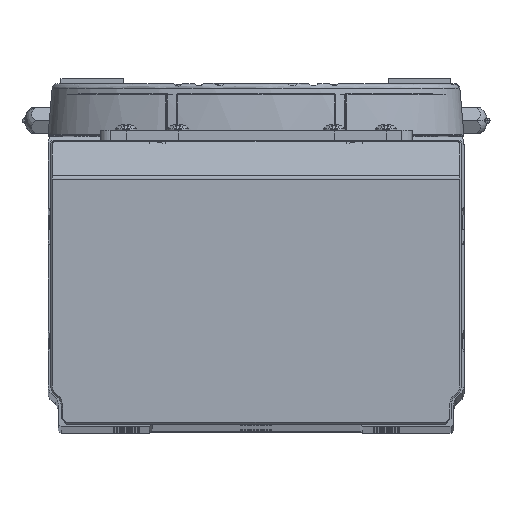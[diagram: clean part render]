
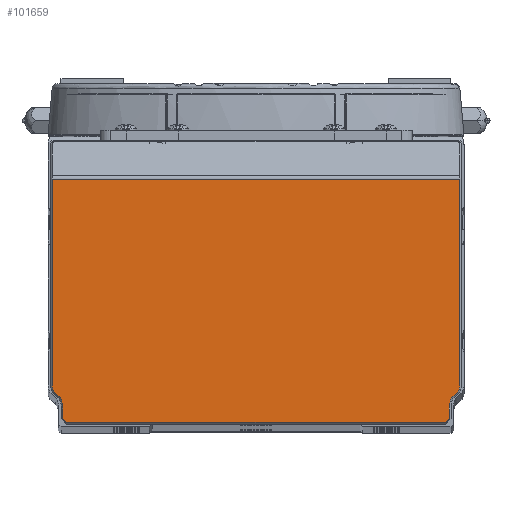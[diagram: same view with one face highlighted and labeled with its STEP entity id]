
A CAD part, top view. The second image highlights one B-rep face of the part: STEP entity #101659.
In plain terms, the highlighted planar face has unit normal (0, 0, 1).
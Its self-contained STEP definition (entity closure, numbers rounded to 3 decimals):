
#591 = DIRECTION ( 'NONE',  ( 0., 0., 1. ) ) ;
#766 = EDGE_CURVE ( 'NONE', #49263, #123008, #46489, .T. ) ;
#1224 = ORIENTED_EDGE ( 'NONE', *, *, #108898, .T. ) ;
#5864 = ORIENTED_EDGE ( 'NONE', *, *, #53673, .T. ) ;
#7689 = VECTOR ( 'NONE', #24457, 1000. ) ;
#8475 = CIRCLE ( 'NONE', #80852, 1.7 ) ;
#9084 = LINE ( 'NONE', #48621, #78837 ) ;
#10180 = DIRECTION ( 'NONE',  ( 0., 0., 1. ) ) ;
#12327 = ORIENTED_EDGE ( 'NONE', *, *, #49247, .T. ) ;
#13358 = CARTESIAN_POINT ( 'NONE',  ( -36.376, -21.2, 1010. ) ) ;
#15736 = VECTOR ( 'NONE', #98667, 1000. ) ;
#15795 = EDGE_CURVE ( 'NONE', #123008, #79033, #9084, .T. ) ;
#16359 = VERTEX_POINT ( 'NONE', #19264 ) ;
#18910 = VERTEX_POINT ( 'NONE', #25454 ) ;
#19264 = CARTESIAN_POINT ( 'NONE',  ( -39.2, -14.172, 1010. ) ) ;
#19786 = DIRECTION ( 'NONE',  ( 0.707, 0.707, 0. ) ) ;
#21953 = EDGE_CURVE ( 'NONE', #78545, #32612, #69023, .T. ) ;
#22692 = AXIS2_PLACEMENT_3D ( 'NONE', #108605, #10180, #49708 ) ;
#24351 = DIRECTION ( 'NONE',  ( -1., 0., 0. ) ) ;
#24457 = DIRECTION ( 'NONE',  ( -1., 0., 0. ) ) ;
#25454 = CARTESIAN_POINT ( 'NONE',  ( 37.2, -17.828, 1010. ) ) ;
#26056 = EDGE_CURVE ( 'NONE', #106241, #79717, #8475, .T. ) ;
#26181 = CARTESIAN_POINT ( 'NONE',  ( -31.538, -22.538, 1010. ) ) ;
#27182 = DIRECTION ( 'NONE',  ( 0., 0., -1. ) ) ;
#28524 = CARTESIAN_POINT ( 'NONE',  ( 38.702, -15.374, 1010. ) ) ;
#28657 = ORIENTED_EDGE ( 'NONE', *, *, #114397, .T. ) ;
#29778 = VECTOR ( 'NONE', #77991, 1000. ) ;
#31667 = DIRECTION ( 'NONE',  ( -1., 0., 0. ) ) ;
#31794 = VERTEX_POINT ( 'NONE', #60465 ) ;
#32612 = VERTEX_POINT ( 'NONE', #110129 ) ;
#33139 = CARTESIAN_POINT ( 'NONE',  ( 31.538, -22.538, 1010. ) ) ;
#36169 = LINE ( 'NONE', #75674, #112937 ) ;
#36563 = EDGE_LOOP ( 'NONE', ( #82494, #41135, #61259, #49179, #5864, #28657, #12327, #89236, #95686, #40460, #72354, #1224, #117810, #63178 ) ) ;
#36857 = VERTEX_POINT ( 'NONE', #98149 ) ;
#36939 = FACE_OUTER_BOUND ( 'NONE', #36563, .T. ) ;
#38503 = CARTESIAN_POINT ( 'NONE',  ( -39.2, 9., 1010. ) ) ;
#38678 = CARTESIAN_POINT ( 'NONE',  ( -37.874, -16.202, 1010. ) ) ;
#39984 = EDGE_CURVE ( 'NONE', #36857, #16359, #127173, .T. ) ;
#40113 = DIRECTION ( 'NONE',  ( -1., 0., 0. ) ) ;
#40460 = ORIENTED_EDGE ( 'NONE', *, *, #80623, .T. ) ;
#40910 = VERTEX_POINT ( 'NONE', #38678 ) ;
#41135 = ORIENTED_EDGE ( 'NONE', *, *, #97608, .T. ) ;
#43439 = AXIS2_PLACEMENT_3D ( 'NONE', #73613, #113065, #24351 ) ;
#46489 = LINE ( 'NONE', #85931, #55380 ) ;
#47115 = LINE ( 'NONE', #86553, #114735 ) ;
#48621 = CARTESIAN_POINT ( 'NONE',  ( -36.288, -21.288, 1010. ) ) ;
#49179 = ORIENTED_EDGE ( 'NONE', *, *, #39984, .T. ) ;
#49203 = CARTESIAN_POINT ( 'NONE',  ( 39.2, -14.172, 1010. ) ) ;
#49247 = EDGE_CURVE ( 'NONE', #40910, #49263, #114941, .T. ) ;
#49263 = VERTEX_POINT ( 'NONE', #61502 ) ;
#49708 = DIRECTION ( 'NONE',  ( -1., 0., 0. ) ) ;
#53499 = VECTOR ( 'NONE', #65717, 1000. ) ;
#53673 = EDGE_CURVE ( 'NONE', #16359, #79404, #78519, .T. ) ;
#53799 = EDGE_CURVE ( 'NONE', #18910, #31794, #99211, .T. ) ;
#55380 = VECTOR ( 'NONE', #125419, 1000. ) ;
#59210 = CARTESIAN_POINT ( 'NONE',  ( 0., -21.2, 1010. ) ) ;
#60465 = CARTESIAN_POINT ( 'NONE',  ( 37.874, -16.202, 1010. ) ) ;
#61259 = ORIENTED_EDGE ( 'NONE', *, *, #81872, .T. ) ;
#61502 = CARTESIAN_POINT ( 'NONE',  ( -37.2, -17.828, 1010. ) ) ;
#62846 = VERTEX_POINT ( 'NONE', #123134 ) ;
#63178 = ORIENTED_EDGE ( 'NONE', *, *, #127741, .T. ) ;
#65717 = DIRECTION ( 'NONE',  ( 0.707, -0.707, 0. ) ) ;
#66737 = DIRECTION ( 'NONE',  ( -1., 0., 0. ) ) ;
#67901 = VECTOR ( 'NONE', #72677, 1000. ) ;
#69023 = LINE ( 'NONE', #108494, #88267 ) ;
#72102 = AXIS2_PLACEMENT_3D ( 'NONE', #115902, #27182, #66737 ) ;
#72354 = ORIENTED_EDGE ( 'NONE', *, *, #21953, .T. ) ;
#72677 = DIRECTION ( 'NONE',  ( 0.707, 0.707, 0. ) ) ;
#73613 = CARTESIAN_POINT ( 'NONE',  ( 39.5, -17.828, 1010. ) ) ;
#73723 = LINE ( 'NONE', #113174, #7689 ) ;
#75674 = CARTESIAN_POINT ( 'NONE',  ( 39.2, 9., 1010. ) ) ;
#75679 = AXIS2_PLACEMENT_3D ( 'NONE', #80888, #120372, #31667 ) ;
#76434 = PLANE ( 'NONE',  #72102 ) ;
#77991 = DIRECTION ( 'NONE',  ( 0., -1., 0. ) ) ;
#78519 = CIRCLE ( 'NONE', #22692, 1.7 ) ;
#78545 = VERTEX_POINT ( 'NONE', #112511 ) ;
#78837 = VECTOR ( 'NONE', #88078, 1000. ) ;
#79033 = VERTEX_POINT ( 'NONE', #13358 ) ;
#79404 = VERTEX_POINT ( 'NONE', #88328 ) ;
#79717 = VERTEX_POINT ( 'NONE', #49203 ) ;
#80623 = EDGE_CURVE ( 'NONE', #79033, #78545, #118072, .T. ) ;
#80852 = AXIS2_PLACEMENT_3D ( 'NONE', #89278, #591, #40113 ) ;
#80888 = CARTESIAN_POINT ( 'NONE',  ( -39.5, -17.828, 1010. ) ) ;
#81872 = EDGE_CURVE ( 'NONE', #62846, #36857, #73723, .T. ) ;
#82494 = ORIENTED_EDGE ( 'NONE', *, *, #26056, .T. ) ;
#85931 = CARTESIAN_POINT ( 'NONE',  ( -37.2, 9., 1010. ) ) ;
#86553 = CARTESIAN_POINT ( 'NONE',  ( 37.2, 9., 1010. ) ) ;
#88078 = DIRECTION ( 'NONE',  ( 0.707, -0.707, 0. ) ) ;
#88267 = VECTOR ( 'NONE', #19786, 1000. ) ;
#88328 = CARTESIAN_POINT ( 'NONE',  ( -38.702, -15.374, 1010. ) ) ;
#89236 = ORIENTED_EDGE ( 'NONE', *, *, #766, .T. ) ;
#89278 = CARTESIAN_POINT ( 'NONE',  ( 37.5, -14.172, 1010. ) ) ;
#95686 = ORIENTED_EDGE ( 'NONE', *, *, #15795, .T. ) ;
#97608 = EDGE_CURVE ( 'NONE', #79717, #62846, #36169, .T. ) ;
#98149 = CARTESIAN_POINT ( 'NONE',  ( -39.2, 25.586, 1010. ) ) ;
#98667 = DIRECTION ( 'NONE',  ( 1., 0., 0. ) ) ;
#99211 = CIRCLE ( 'NONE', #43439, 2.3 ) ;
#101659 = ADVANCED_FACE ( 'NONE', ( #36939 ), #76434, .F. ) ;
#106241 = VERTEX_POINT ( 'NONE', #28524 ) ;
#108494 = CARTESIAN_POINT ( 'NONE',  ( 37.288, -20.288, 1010. ) ) ;
#108605 = CARTESIAN_POINT ( 'NONE',  ( -37.5, -14.172, 1010. ) ) ;
#108898 = EDGE_CURVE ( 'NONE', #32612, #18910, #47115, .T. ) ;
#110129 = CARTESIAN_POINT ( 'NONE',  ( 37.2, -20.376, 1010. ) ) ;
#112511 = CARTESIAN_POINT ( 'NONE',  ( 36.376, -21.2, 1010. ) ) ;
#112937 = VECTOR ( 'NONE', #115150, 1000. ) ;
#113065 = DIRECTION ( 'NONE',  ( 0., 0., -1. ) ) ;
#113174 = CARTESIAN_POINT ( 'NONE',  ( -39.5, 25.586, 1010. ) ) ;
#114397 = EDGE_CURVE ( 'NONE', #79404, #40910, #114887, .T. ) ;
#114673 = CARTESIAN_POINT ( 'NONE',  ( -37.2, -20.376, 1010. ) ) ;
#114735 = VECTOR ( 'NONE', #126038, 1000. ) ;
#114887 = LINE ( 'NONE', #26181, #53499 ) ;
#114941 = CIRCLE ( 'NONE', #75679, 2.3 ) ;
#115150 = DIRECTION ( 'NONE',  ( 0., 1., 0. ) ) ;
#115902 = CARTESIAN_POINT ( 'NONE',  ( 0., 9., 1010. ) ) ;
#117810 = ORIENTED_EDGE ( 'NONE', *, *, #53799, .T. ) ;
#118072 = LINE ( 'NONE', #59210, #15736 ) ;
#120372 = DIRECTION ( 'NONE',  ( 0., 0., -1. ) ) ;
#121844 = LINE ( 'NONE', #33139, #67901 ) ;
#123008 = VERTEX_POINT ( 'NONE', #114673 ) ;
#123134 = CARTESIAN_POINT ( 'NONE',  ( 39.2, 25.586, 1010. ) ) ;
#125419 = DIRECTION ( 'NONE',  ( 0., -1., 0. ) ) ;
#126038 = DIRECTION ( 'NONE',  ( 0., 1., 0. ) ) ;
#127173 = LINE ( 'NONE', #38503, #29778 ) ;
#127741 = EDGE_CURVE ( 'NONE', #31794, #106241, #121844, .T. ) ;
